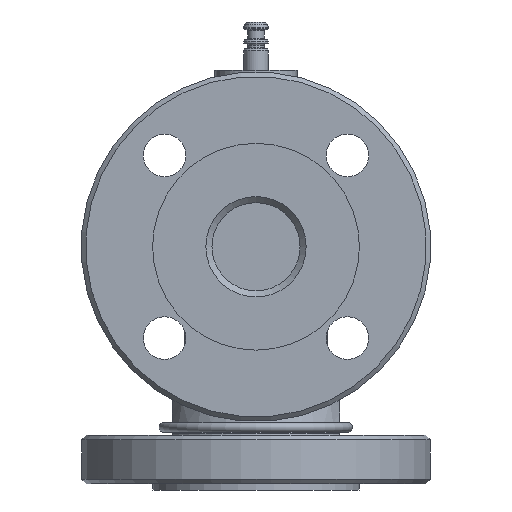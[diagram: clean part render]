
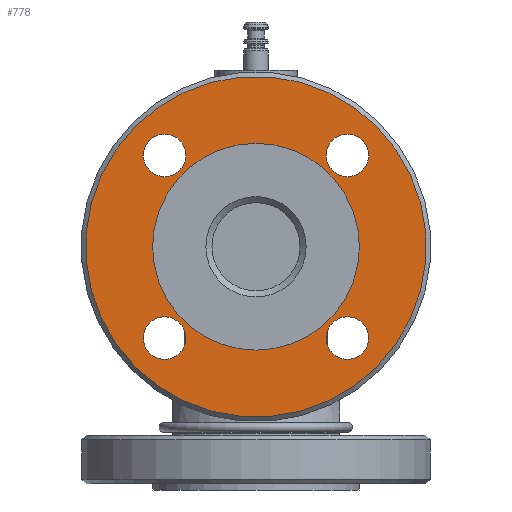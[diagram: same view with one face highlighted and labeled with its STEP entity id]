
A CAD part, left-side view. The second image highlights one B-rep face of the part: STEP entity #778.
In plain terms, the highlighted planar face has unit normal (-1, 0, 0).
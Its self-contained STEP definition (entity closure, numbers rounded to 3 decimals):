
#531=PLANE('',#3561);
#778=ADVANCED_FACE('',(#1088,#1089,#1090,#1091,#1092,#1093),#531,.T.);
#1088=FACE_BOUND('',#1424,.T.);
#1089=FACE_BOUND('',#1425,.T.);
#1090=FACE_BOUND('',#1426,.T.);
#1091=FACE_BOUND('',#1427,.T.);
#1092=FACE_BOUND('',#1428,.T.);
#1093=FACE_BOUND('',#1429,.T.);
#1424=EDGE_LOOP('',(#1971));
#1425=EDGE_LOOP('',(#1972));
#1426=EDGE_LOOP('',(#1973));
#1427=EDGE_LOOP('',(#1974));
#1428=EDGE_LOOP('',(#1975));
#1429=EDGE_LOOP('',(#1976));
#1971=ORIENTED_EDGE('',*,*,#2891,.T.);
#1972=ORIENTED_EDGE('',*,*,#2860,.T.);
#1973=ORIENTED_EDGE('',*,*,#2892,.T.);
#1974=ORIENTED_EDGE('',*,*,#2893,.T.);
#1975=ORIENTED_EDGE('',*,*,#2894,.T.);
#1976=ORIENTED_EDGE('',*,*,#2895,.T.);
#2537=VERTEX_POINT('',#5281);
#2557=VERTEX_POINT('',#5402);
#2558=VERTEX_POINT('',#5404);
#2559=VERTEX_POINT('',#5406);
#2560=VERTEX_POINT('',#5408);
#2561=VERTEX_POINT('',#5410);
#2860=EDGE_CURVE('',#2537,#2537,#3204,.T.);
#2891=EDGE_CURVE('',#2557,#2557,#3225,.T.);
#2892=EDGE_CURVE('',#2558,#2558,#3226,.T.);
#2893=EDGE_CURVE('',#2559,#2559,#3227,.T.);
#2894=EDGE_CURVE('',#2560,#2560,#3228,.T.);
#2895=EDGE_CURVE('',#2561,#2561,#3229,.T.);
#3204=CIRCLE('',#3515,34.);
#3225=CIRCLE('',#3556,56.);
#3226=CIRCLE('',#3557,7.);
#3227=CIRCLE('',#3558,7.);
#3228=CIRCLE('',#3559,7.);
#3229=CIRCLE('',#3560,7.);
#3515=AXIS2_PLACEMENT_3D('',#5280,#4171,#4172);
#3556=AXIS2_PLACEMENT_3D('',#5401,#4257,#4258);
#3557=AXIS2_PLACEMENT_3D('',#5403,#4259,#4260);
#3558=AXIS2_PLACEMENT_3D('',#5405,#4261,#4262);
#3559=AXIS2_PLACEMENT_3D('',#5407,#4263,#4264);
#3560=AXIS2_PLACEMENT_3D('',#5409,#4265,#4266);
#3561=AXIS2_PLACEMENT_3D('',#5411,#4267,#4268);
#4171=DIRECTION('',(1.,0.,0.));
#4172=DIRECTION('',(0.,0.,1.));
#4257=DIRECTION('',(-1.,0.,0.));
#4258=DIRECTION('',(0.,-0.707,-0.707));
#4259=DIRECTION('',(1.,0.,0.));
#4260=DIRECTION('',(0.,0.707,-0.707));
#4261=DIRECTION('',(1.,0.,0.));
#4262=DIRECTION('',(0.,-0.707,-0.707));
#4263=DIRECTION('',(1.,0.,0.));
#4264=DIRECTION('',(0.,-0.707,0.707));
#4265=DIRECTION('',(1.,0.,0.));
#4266=DIRECTION('',(0.,0.707,0.707));
#4267=DIRECTION('',(-1.,0.,0.));
#4268=DIRECTION('',(0.,-0.707,-0.707));
#5280=CARTESIAN_POINT('',(22.,0.,100.));
#5281=CARTESIAN_POINT('',(22.,0.,134.));
#5401=CARTESIAN_POINT('',(22.,0.,100.));
#5402=CARTESIAN_POINT('',(22.,-39.598,60.402));
#5403=CARTESIAN_POINT('',(22.,-30.052,69.948));
#5404=CARTESIAN_POINT('',(22.,-25.102,64.998));
#5405=CARTESIAN_POINT('',(22.,-30.052,130.052));
#5406=CARTESIAN_POINT('',(22.,-35.002,125.102));
#5407=CARTESIAN_POINT('',(22.,30.052,130.052));
#5408=CARTESIAN_POINT('',(22.,25.102,135.002));
#5409=CARTESIAN_POINT('',(22.,30.052,69.948));
#5410=CARTESIAN_POINT('',(22.,35.002,74.898));
#5411=CARTESIAN_POINT('',(22.,0.,100.));
